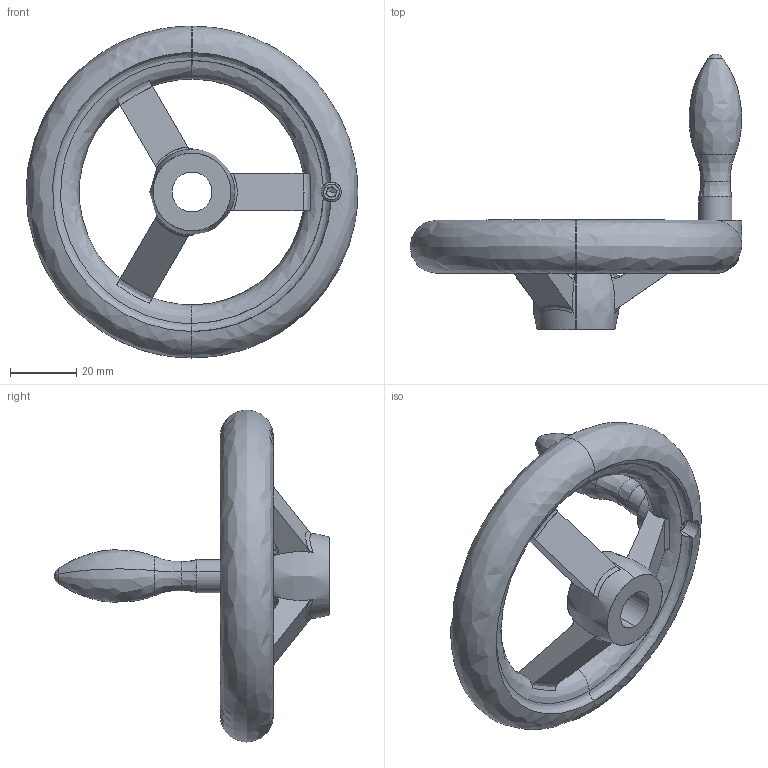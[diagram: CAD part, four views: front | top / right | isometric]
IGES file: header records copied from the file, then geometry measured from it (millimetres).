
Start section: SolidWorks IGES file using analytic representation for surfaces
Global section: file name: C:\Users\IanO\Desktop\Temp File\Process pending\77120_v2\77120_v2_20171108_IGES\77120.W0406.igs; native system: SolidWorks 2017; preprocessor: SolidWorks 2017; author: IanO; date: 171108.084652; units: millimetre
Bounding box: 100 x 83 x 100 mm (x, y, z)
Surface area: 20905.6 mm2 (no closed solid volume)
Topology: 0 solids, 0 shells, 129 faces, 1449 edges, 1442 vertices
Faces by surface type: bspline 71, revolution 58
